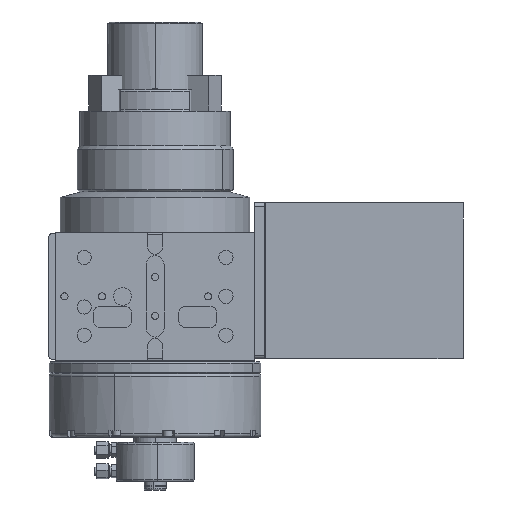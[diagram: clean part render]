
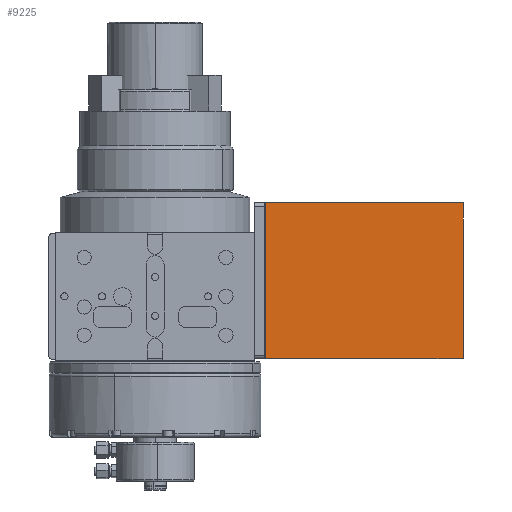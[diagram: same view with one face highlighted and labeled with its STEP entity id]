
A CAD part, front view. The second image highlights one B-rep face of the part: STEP entity #9225.
In plain terms, the highlighted planar face has unit normal (0, -1, 0).
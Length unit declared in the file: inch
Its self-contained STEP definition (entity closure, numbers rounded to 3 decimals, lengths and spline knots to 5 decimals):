
#3019 = LINE ( 'NONE', #32013, #29179 ) ;
#3372 = CARTESIAN_POINT ( 'NONE',  ( 10.8733, -4.95, -2.2 ) ) ;
#5121 = DIRECTION ( 'NONE',  ( 1., 0., 0. ) ) ;
#6170 = EDGE_CURVE ( 'NONE', #24430, #29770, #50871, .T. ) ;
#6324 = CARTESIAN_POINT ( 'NONE',  ( 10.8733, -4.95, -13.26189 ) ) ;
#7257 = FACE_OUTER_BOUND ( 'NONE', #25438, .T. ) ;
#9225 = ADVANCED_FACE ( 'NONE', ( #7257 ), #41346, .T. ) ;
#9321 = VERTEX_POINT ( 'NONE', #47362 ) ;
#11755 = DIRECTION ( 'NONE',  ( 0., -1., 0. ) ) ;
#13652 = ORIENTED_EDGE ( 'NONE', *, *, #46705, .F. ) ;
#15584 = VECTOR ( 'NONE', #35931, 39.37008 ) ;
#16438 = DIRECTION ( 'NONE',  ( 1., 0., 0. ) ) ;
#24430 = VERTEX_POINT ( 'NONE', #3372 ) ;
#25438 = EDGE_LOOP ( 'NONE', ( #26325, #53336, #35007, #13652 ) ) ;
#26325 = ORIENTED_EDGE ( 'NONE', *, *, #47412, .F. ) ;
#26847 = DIRECTION ( 'NONE',  ( 0., 0., 1. ) ) ;
#29179 = VECTOR ( 'NONE', #16438, 39.37008 ) ;
#29770 = VERTEX_POINT ( 'NONE', #44741 ) ;
#31164 = DIRECTION ( 'NONE',  ( 1., 0., 0. ) ) ;
#32013 = CARTESIAN_POINT ( 'NONE',  ( 10.8733, -4.95, -2.2 ) ) ;
#35007 = ORIENTED_EDGE ( 'NONE', *, *, #6170, .T. ) ;
#35931 = DIRECTION ( 'NONE',  ( 0., 0., 1. ) ) ;
#39891 = VECTOR ( 'NONE', #26847, 39.37008 ) ;
#41157 = EDGE_CURVE ( 'NONE', #54274, #24430, #3019, .T. ) ;
#41346 = PLANE ( 'NONE',  #42421 ) ;
#42421 = AXIS2_PLACEMENT_3D ( 'NONE', #6324, #11755, #31164 ) ;
#44741 = CARTESIAN_POINT ( 'NONE',  ( 10.8733, -4.95, 3.3 ) ) ;
#44947 = VECTOR ( 'NONE', #5121, 39.37008 ) ;
#46705 = EDGE_CURVE ( 'NONE', #9321, #29770, #53532, .T. ) ;
#47362 = CARTESIAN_POINT ( 'NONE',  ( 3.89125, -4.95, 3.3 ) ) ;
#47412 = EDGE_CURVE ( 'NONE', #54274, #9321, #60295, .T. ) ;
#50112 = CARTESIAN_POINT ( 'NONE',  ( 3.89125, -4.95, -13.26189 ) ) ;
#50871 = LINE ( 'NONE', #55348, #15584 ) ;
#53336 = ORIENTED_EDGE ( 'NONE', *, *, #41157, .T. ) ;
#53532 = LINE ( 'NONE', #57692, #44947 ) ;
#54274 = VERTEX_POINT ( 'NONE', #59929 ) ;
#55348 = CARTESIAN_POINT ( 'NONE',  ( 10.8733, -4.95, -13.26189 ) ) ;
#57692 = CARTESIAN_POINT ( 'NONE',  ( 10.8733, -4.95, 3.3 ) ) ;
#59929 = CARTESIAN_POINT ( 'NONE',  ( 3.89125, -4.95, -2.2 ) ) ;
#60295 = LINE ( 'NONE', #50112, #39891 ) ;
